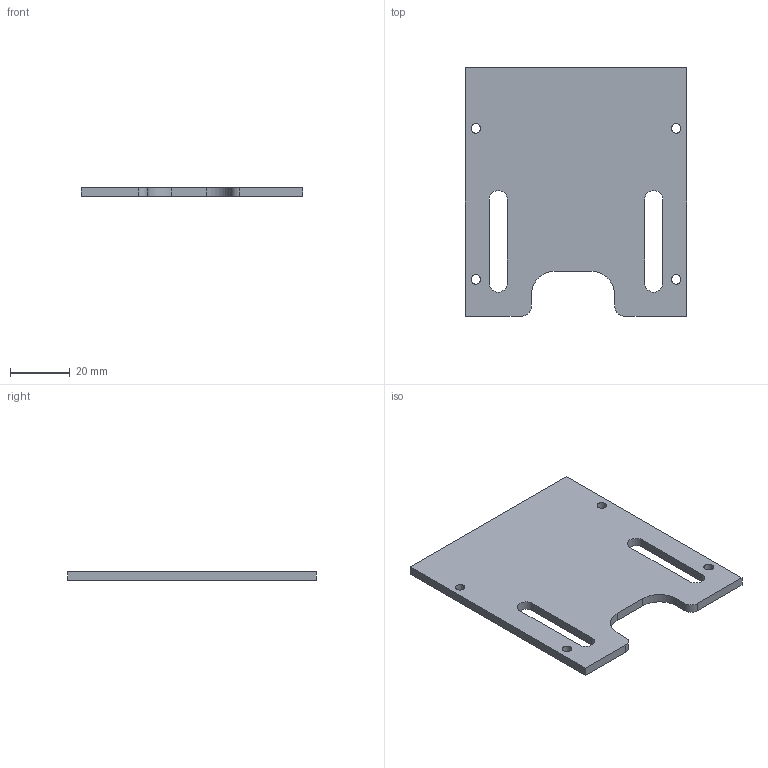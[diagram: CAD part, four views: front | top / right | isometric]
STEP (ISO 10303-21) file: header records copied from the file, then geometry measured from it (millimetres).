
FILE_DESCRIPTION(/* description */ (''),/* implementation_level */ '2;1');
FILE_NAME(/* name */ 'rear_plate_26012016.stp',/* time_stamp */ '2016-01-26T01:27:59+03:00',/* author */ (''),/* organization */ (''),/* preprocessor_version */ 'ST-DEVELOPER v15',/* originating_system */ 'SIEMENS PLM Software NX 9.0',/* authorisation */ '');
FILE_SCHEMA (('AUTOMOTIVE_DESIGN { 1 0 10303 214 3 1 1 1 }'));
Length unit declared in the file: millimetre
Products named in the file (1): c0f007BCC3D27iuc
Bounding box: 74 x 83 x 3 mm (x, y, z)
Volume: 15962.9 mm3; surface area: 12215.3 mm2
Topology: 1 solids, 1 shells, 26 faces, 72 edges, 48 vertices
Faces by surface type: plane 14, cylinder 12
Full cylindrical faces by diameter (mm): 3.2 x4
Entity records: 876 total; most frequent: DIRECTION 146, CARTESIAN_POINT 143, ORIENTED_EDGE 136, EDGE_CURVE 68, AXIS2_PLACEMENT_3D 51, VERTEX_POINT 48, LINE 44, VECTOR 44
